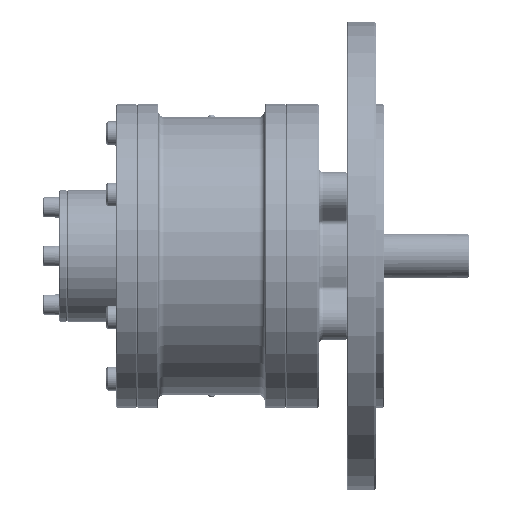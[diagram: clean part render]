
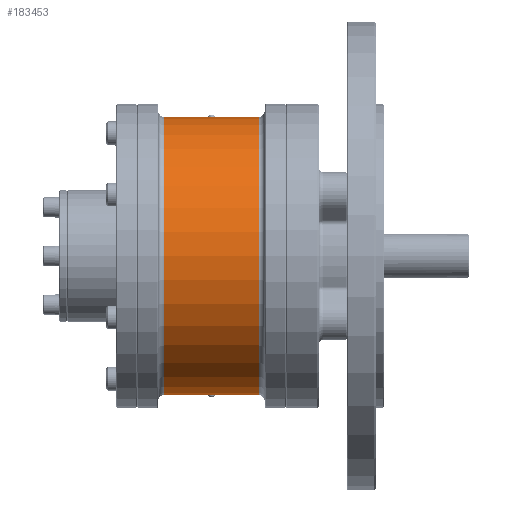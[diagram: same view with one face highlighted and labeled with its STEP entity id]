
A CAD part, front view. The second image highlights one B-rep face of the part: STEP entity #183453.
In plain terms, the highlighted cylindrical face has radius 59.5 mm (diameter 119 mm), a partial arc.
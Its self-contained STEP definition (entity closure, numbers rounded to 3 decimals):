
#2220 = DIRECTION ( 'NONE',  ( 0., 0., -1. ) ) ;
#4278 = AXIS2_PLACEMENT_3D ( 'NONE', #69557, #36244, #71019 ) ;
#4375 = CARTESIAN_POINT ( 'NONE',  ( 17.5, 0., -59.5 ) ) ;
#4422 = CARTESIAN_POINT ( 'NONE',  ( -22.75, 0., 59.5 ) ) ;
#8215 = LINE ( 'NONE', #72108, #196372 ) ;
#8947 = EDGE_CURVE ( 'NONE', #68770, #9575, #121720, .T. ) ;
#9575 = VERTEX_POINT ( 'NONE', #36015 ) ;
#26992 = ORIENTED_EDGE ( 'NONE', *, *, #100417, .T. ) ;
#35683 = ORIENTED_EDGE ( 'NONE', *, *, #145095, .F. ) ;
#35921 = DIRECTION ( 'NONE',  ( 0., 0., -1. ) ) ;
#36015 = CARTESIAN_POINT ( 'NONE',  ( 20.25, 0., 59.5 ) ) ;
#36244 = DIRECTION ( 'NONE',  ( 1., 0., 0. ) ) ;
#45752 = VECTOR ( 'NONE', #62345, 1000. ) ;
#52899 = VERTEX_POINT ( 'NONE', #116699 ) ;
#55243 = ORIENTED_EDGE ( 'NONE', *, *, #181995, .T. ) ;
#55844 = DIRECTION ( 'NONE',  ( 1., 0., 0. ) ) ;
#57975 = ORIENTED_EDGE ( 'NONE', *, *, #70303, .T. ) ;
#57996 = DIRECTION ( 'NONE',  ( 1., 0., 0. ) ) ;
#61142 = CYLINDRICAL_SURFACE ( 'NONE', #193132, 59.5 ) ;
#61612 = CARTESIAN_POINT ( 'NONE',  ( -15., 0., 59.5 ) ) ;
#62345 = DIRECTION ( 'NONE',  ( 1., 0., 0. ) ) ;
#68770 = VERTEX_POINT ( 'NONE', #86015 ) ;
#68864 = DIRECTION ( 'NONE',  ( 1., 0., 0. ) ) ;
#69557 = CARTESIAN_POINT ( 'NONE',  ( -20.25, 0., 0. ) ) ;
#70303 = EDGE_CURVE ( 'NONE', #52899, #9575, #175789, .T. ) ;
#70427 = EDGE_LOOP ( 'NONE', ( #35683, #55243, #86298, #26992, #80306, #57975, #218957, #184162 ) ) ;
#71019 = DIRECTION ( 'NONE',  ( 0., 0., -1. ) ) ;
#72076 = CARTESIAN_POINT ( 'NONE',  ( -20.25, 0., 59.5 ) ) ;
#72108 = CARTESIAN_POINT ( 'NONE',  ( -22.75, 0., 59.5 ) ) ;
#72491 = DIRECTION ( 'NONE',  ( 1., 0., 0. ) ) ;
#73943 = VECTOR ( 'NONE', #57996, 1000. ) ;
#77307 = CARTESIAN_POINT ( 'NONE',  ( -20.25, 0., -59.5 ) ) ;
#80306 = ORIENTED_EDGE ( 'NONE', *, *, #175879, .T. ) ;
#84579 = LINE ( 'NONE', #108227, #73943 ) ;
#86015 = CARTESIAN_POINT ( 'NONE',  ( 17.5, 0., 59.5 ) ) ;
#86298 = ORIENTED_EDGE ( 'NONE', *, *, #215457, .T. ) ;
#95678 = LINE ( 'NONE', #127645, #111647 ) ;
#96022 = VERTEX_POINT ( 'NONE', #72076 ) ;
#100417 = EDGE_CURVE ( 'NONE', #189837, #216552, #84579, .T. ) ;
#108227 = CARTESIAN_POINT ( 'NONE',  ( -15., 0., -59.5 ) ) ;
#111647 = VECTOR ( 'NONE', #213006, 1000. ) ;
#113836 = VECTOR ( 'NONE', #72491, 1000. ) ;
#116699 = CARTESIAN_POINT ( 'NONE',  ( 20.25, 0., -59.5 ) ) ;
#119168 = CARTESIAN_POINT ( 'NONE',  ( -22.75, 0., 0. ) ) ;
#121720 = LINE ( 'NONE', #4422, #113836 ) ;
#122867 = VERTEX_POINT ( 'NONE', #188824 ) ;
#127616 = VECTOR ( 'NONE', #189744, 1000. ) ;
#127645 = CARTESIAN_POINT ( 'NONE',  ( -22.75, 0., -59.5 ) ) ;
#134062 = CARTESIAN_POINT ( 'NONE',  ( -22.75, 0., -59.5 ) ) ;
#145095 = EDGE_CURVE ( 'NONE', #96022, #122867, #8215, .T. ) ;
#154034 = EDGE_CURVE ( 'NONE', #122867, #68770, #202283, .T. ) ;
#158744 = CARTESIAN_POINT ( 'NONE',  ( -17.5, 0., -59.5 ) ) ;
#169244 = AXIS2_PLACEMENT_3D ( 'NONE', #170788, #203432, #35921 ) ;
#170788 = CARTESIAN_POINT ( 'NONE',  ( 20.25, 0., 0. ) ) ;
#175789 = CIRCLE ( 'NONE', #169244, 59.5 ) ;
#175879 = EDGE_CURVE ( 'NONE', #216552, #52899, #95678, .T. ) ;
#181995 = EDGE_CURVE ( 'NONE', #96022, #207198, #205294, .T. ) ;
#183453 = ADVANCED_FACE ( 'NONE', ( #199173 ), #61142, .T. ) ;
#184162 = ORIENTED_EDGE ( 'NONE', *, *, #154034, .F. ) ;
#188824 = CARTESIAN_POINT ( 'NONE',  ( -17.5, 0., 59.5 ) ) ;
#189744 = DIRECTION ( 'NONE',  ( 1., 0., 0. ) ) ;
#189837 = VERTEX_POINT ( 'NONE', #158744 ) ;
#193132 = AXIS2_PLACEMENT_3D ( 'NONE', #119168, #68864, #2220 ) ;
#196372 = VECTOR ( 'NONE', #55844, 1000. ) ;
#199173 = FACE_OUTER_BOUND ( 'NONE', #70427, .T. ) ;
#202283 = LINE ( 'NONE', #61612, #45752 ) ;
#203432 = DIRECTION ( 'NONE',  ( -1., 0., 0. ) ) ;
#205294 = CIRCLE ( 'NONE', #4278, 59.5 ) ;
#207198 = VERTEX_POINT ( 'NONE', #77307 ) ;
#207315 = LINE ( 'NONE', #134062, #127616 ) ;
#213006 = DIRECTION ( 'NONE',  ( 1., 0., 0. ) ) ;
#215457 = EDGE_CURVE ( 'NONE', #207198, #189837, #207315, .T. ) ;
#216552 = VERTEX_POINT ( 'NONE', #4375 ) ;
#218957 = ORIENTED_EDGE ( 'NONE', *, *, #8947, .F. ) ;
